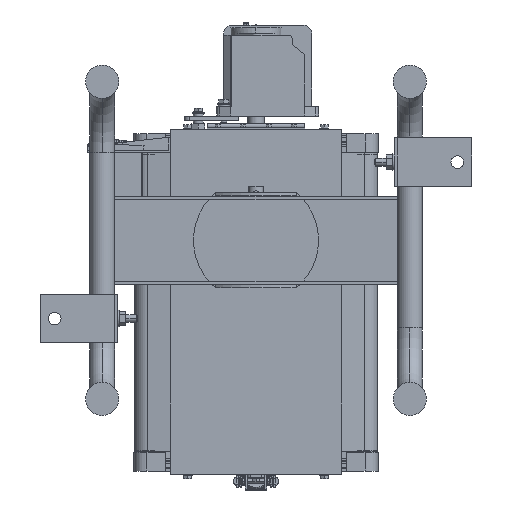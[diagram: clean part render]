
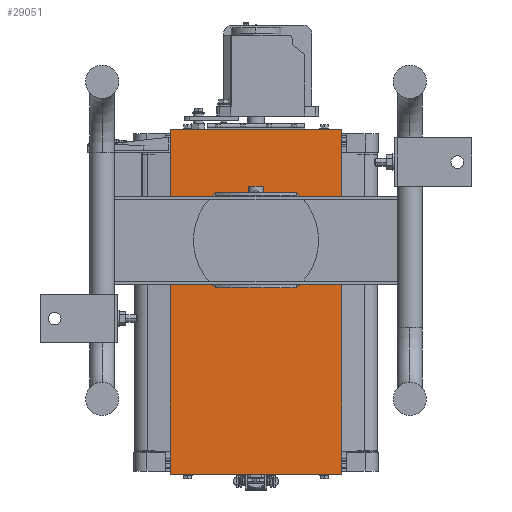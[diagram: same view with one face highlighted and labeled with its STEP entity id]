
A CAD part, front view. The second image highlights one B-rep face of the part: STEP entity #29051.
In plain terms, the highlighted planar face has unit normal (0, -1, 0).
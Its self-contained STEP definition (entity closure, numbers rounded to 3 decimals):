
#236 = AXIS2_PLACEMENT_3D ( 'NONE', #9241, #32040, #39124 ) ;
#2005 = CARTESIAN_POINT ( 'NONE',  ( 212.5, -153., 177. ) ) ;
#2028 = CARTESIAN_POINT ( 'NONE',  ( 156.5, -153., 63.5 ) ) ;
#2204 = CARTESIAN_POINT ( 'NONE',  ( 37.5, -153., 177. ) ) ;
#2490 = FACE_BOUND ( 'NONE', #33204, .T. ) ;
#3061 = FACE_OUTER_BOUND ( 'NONE', #23248, .T. ) ;
#3112 = FACE_BOUND ( 'NONE', #21183, .T. ) ;
#3248 = LINE ( 'NONE', #45540, #26564 ) ;
#3495 = AXIS2_PLACEMENT_3D ( 'NONE', #34658, #27025, #22956 ) ;
#4801 = CARTESIAN_POINT ( 'NONE',  ( 90., -153., 63.5 ) ) ;
#5549 = ORIENTED_EDGE ( 'NONE', *, *, #25779, .F. ) ;
#6928 = DIRECTION ( 'NONE',  ( 0., -1., 0. ) ) ;
#7328 = LINE ( 'NONE', #32086, #21905 ) ;
#7875 = EDGE_CURVE ( 'NONE', #35939, #44538, #26937, .T. ) ;
#8668 = ORIENTED_EDGE ( 'NONE', *, *, #44834, .F. ) ;
#8676 = AXIS2_PLACEMENT_3D ( 'NONE', #4801, #12243, #23871 ) ;
#9241 = CARTESIAN_POINT ( 'NONE',  ( 160., -153., 63.5 ) ) ;
#10033 = DIRECTION ( 'NONE',  ( 1., 0., 0. ) ) ;
#10689 = CARTESIAN_POINT ( 'NONE',  ( 160., -153., 63.5 ) ) ;
#10695 = CIRCLE ( 'NONE', #24905, 3.5 ) ;
#10764 = EDGE_CURVE ( 'NONE', #39852, #25418, #10695, .T. ) ;
#10858 = DIRECTION ( 'NONE',  ( 1., 0., 0. ) ) ;
#11926 = EDGE_CURVE ( 'NONE', #34262, #16143, #35120, .T. ) ;
#12243 = DIRECTION ( 'NONE',  ( 0., -1., 0. ) ) ;
#13444 = VECTOR ( 'NONE', #10033, 1000. ) ;
#13911 = ORIENTED_EDGE ( 'NONE', *, *, #11926, .F. ) ;
#15287 = CARTESIAN_POINT ( 'NONE',  ( 86.5, -153., 63.5 ) ) ;
#16143 = VERTEX_POINT ( 'NONE', #2028 ) ;
#16978 = VERTEX_POINT ( 'NONE', #2204 ) ;
#17937 = CIRCLE ( 'NONE', #236, 3.5 ) ;
#18849 = VECTOR ( 'NONE', #35564, 1000. ) ;
#21183 = EDGE_LOOP ( 'NONE', ( #5549, #22779 ) ) ;
#21905 = VECTOR ( 'NONE', #28717, 1000. ) ;
#22362 = CARTESIAN_POINT ( 'NONE',  ( 37.5, -153., -175.7 ) ) ;
#22779 = ORIENTED_EDGE ( 'NONE', *, *, #10764, .F. ) ;
#22850 = CARTESIAN_POINT ( 'NONE',  ( 212.5, -153., -175.7 ) ) ;
#22956 = DIRECTION ( 'NONE',  ( -1., 0., 0. ) ) ;
#23248 = EDGE_LOOP ( 'NONE', ( #32516, #45284, #8668, #48170 ) ) ;
#23708 = EDGE_CURVE ( 'NONE', #16978, #35939, #3248, .T. ) ;
#23871 = DIRECTION ( 'NONE',  ( -1., 0., 0. ) ) ;
#24905 = AXIS2_PLACEMENT_3D ( 'NONE', #36443, #6928, #32988 ) ;
#24939 = VERTEX_POINT ( 'NONE', #41993 ) ;
#25418 = VERTEX_POINT ( 'NONE', #44895 ) ;
#25779 = EDGE_CURVE ( 'NONE', #25418, #39852, #42134, .T. ) ;
#26564 = VECTOR ( 'NONE', #30330, 1000. ) ;
#26937 = LINE ( 'NONE', #28686, #13444 ) ;
#27025 = DIRECTION ( 'NONE',  ( 0., 1., 0. ) ) ;
#27939 = CARTESIAN_POINT ( 'NONE',  ( 163.5, -153., 63.5 ) ) ;
#28686 = CARTESIAN_POINT ( 'NONE',  ( 37.5, -153., -175.7 ) ) ;
#28717 = DIRECTION ( 'NONE',  ( 1., 0., 0. ) ) ;
#29051 = ADVANCED_FACE ( 'NONE', ( #2490, #3112, #3061 ), #45330, .F. ) ;
#29633 = DIRECTION ( 'NONE',  ( 0., -1., 0. ) ) ;
#30330 = DIRECTION ( 'NONE',  ( 0., 0., -1. ) ) ;
#30862 = AXIS2_PLACEMENT_3D ( 'NONE', #10689, #29633, #10858 ) ;
#32040 = DIRECTION ( 'NONE',  ( 0., -1., 0. ) ) ;
#32086 = CARTESIAN_POINT ( 'NONE',  ( 37.5, -153., 177. ) ) ;
#32516 = ORIENTED_EDGE ( 'NONE', *, *, #7875, .T. ) ;
#32988 = DIRECTION ( 'NONE',  ( -1., 0., 0. ) ) ;
#33204 = EDGE_LOOP ( 'NONE', ( #13911, #37226 ) ) ;
#34185 = EDGE_CURVE ( 'NONE', #24939, #44538, #46913, .T. ) ;
#34262 = VERTEX_POINT ( 'NONE', #27939 ) ;
#34658 = CARTESIAN_POINT ( 'NONE',  ( 37.5, -153., 177. ) ) ;
#35120 = CIRCLE ( 'NONE', #30862, 3.5 ) ;
#35564 = DIRECTION ( 'NONE',  ( 0., 0., -1. ) ) ;
#35939 = VERTEX_POINT ( 'NONE', #22362 ) ;
#36443 = CARTESIAN_POINT ( 'NONE',  ( 90., -153., 63.5 ) ) ;
#36814 = EDGE_CURVE ( 'NONE', #16143, #34262, #17937, .T. ) ;
#37226 = ORIENTED_EDGE ( 'NONE', *, *, #36814, .F. ) ;
#39124 = DIRECTION ( 'NONE',  ( 1., 0., 0. ) ) ;
#39852 = VERTEX_POINT ( 'NONE', #15287 ) ;
#41993 = CARTESIAN_POINT ( 'NONE',  ( 212.5, -153., 177. ) ) ;
#42134 = CIRCLE ( 'NONE', #8676, 3.5 ) ;
#44538 = VERTEX_POINT ( 'NONE', #22850 ) ;
#44834 = EDGE_CURVE ( 'NONE', #16978, #24939, #7328, .T. ) ;
#44895 = CARTESIAN_POINT ( 'NONE',  ( 93.5, -153., 63.5 ) ) ;
#45284 = ORIENTED_EDGE ( 'NONE', *, *, #34185, .F. ) ;
#45330 = PLANE ( 'NONE',  #3495 ) ;
#45540 = CARTESIAN_POINT ( 'NONE',  ( 37.5, -153., 177. ) ) ;
#46913 = LINE ( 'NONE', #2005, #18849 ) ;
#48170 = ORIENTED_EDGE ( 'NONE', *, *, #23708, .T. ) ;
